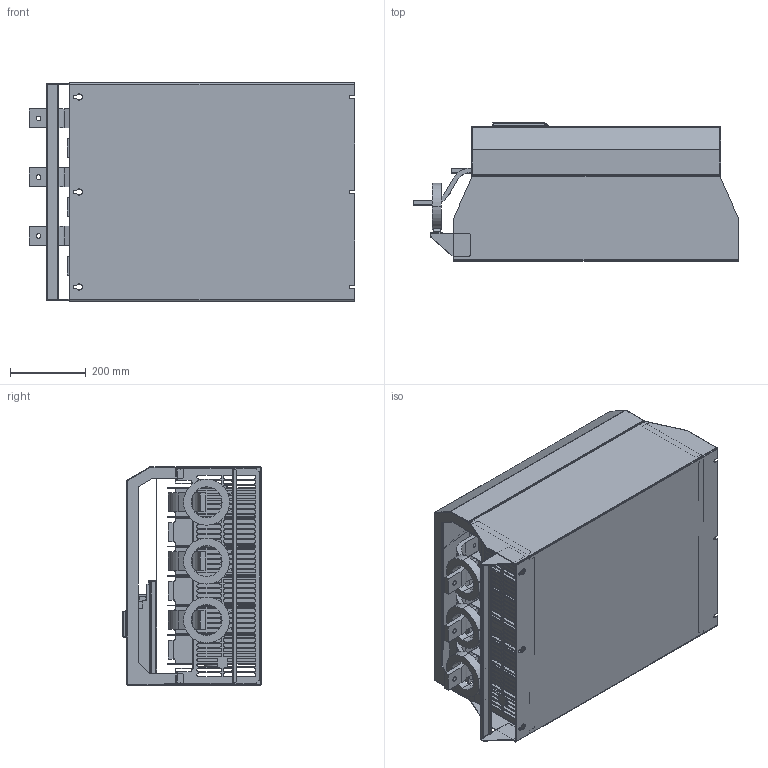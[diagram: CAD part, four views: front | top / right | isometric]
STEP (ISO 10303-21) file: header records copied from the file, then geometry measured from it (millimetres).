
FILE_DESCRIPTION (( 'STEP AP214' ), '1' );
FILE_NAME ('EMX3 G5X General Assembly, Simplified, Top-Top, 21NOV12.STEP', '2012-11-27T01:03:02', ( '' ), ( '' ), 'SwSTEP 2.0', 'SolidWorks 2012', '' );
FILE_SCHEMA (( 'AUTOMOTIVE_DESIGN' ));
Length unit declared in the file: millimetre
Products named in the file (1): EMX3 G5X General Assembly, Simplified, Top-Top, 21NOV12
Bounding box: 855.5 x 364.05 x 573.8 mm (x, y, z)
Volume: 53008941.4 mm3; surface area: 8052990.8 mm2
Topology: 54 solids, 54 shells, 4068 faces, 10809 edges, 7051 vertices
Faces by surface type: plane 2227, cylinder 1128, bspline 519, cone 140, torus 33, sphere 21
Entity records: 187286 total; most frequent: CARTESIAN_POINT 41285, ORIENTED_EDGE 21604, DIRECTION 19346, EDGE_CURVE 10802, VECTOR 7122, LINE 7122, VERTEX_POINT 7051, AXIS2_PLACEMENT_3D 6112
